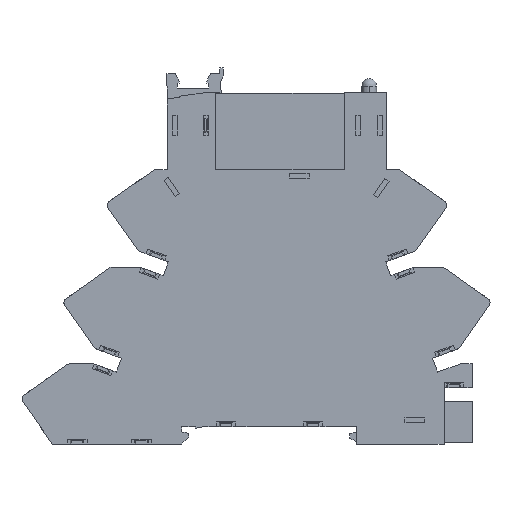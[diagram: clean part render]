
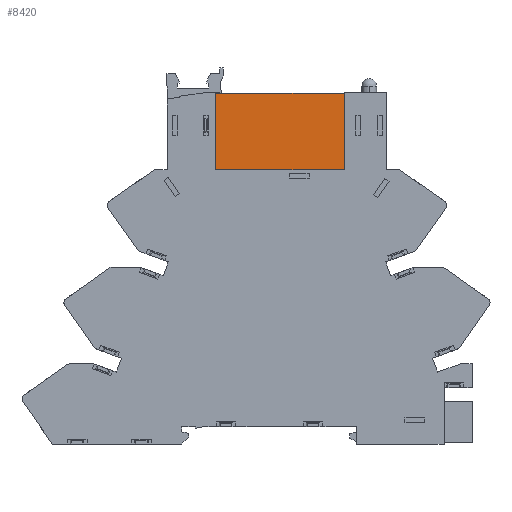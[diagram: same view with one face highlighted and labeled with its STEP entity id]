
A CAD part, left-side view. The second image highlights one B-rep face of the part: STEP entity #8420.
In plain terms, the highlighted planar face has unit normal (-1, 0, 0).
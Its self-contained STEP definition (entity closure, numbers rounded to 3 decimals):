
#466 = VERTEX_POINT ( 'NONE', #7948 ) ;
#1104 = VECTOR ( 'NONE', #3291, 1000. ) ;
#1930 = CARTESIAN_POINT ( 'NONE',  ( -3., -15.206, 67.991 ) ) ;
#2346 = CARTESIAN_POINT ( 'NONE',  ( -3., -15.206, 52.359 ) ) ;
#2509 = EDGE_CURVE ( 'NONE', #466, #11134, #11460, .T. ) ;
#2667 = ORIENTED_EDGE ( 'NONE', *, *, #7875, .F. ) ;
#3270 = CARTESIAN_POINT ( 'NONE',  ( -3., 1.384, -0.099 ) ) ;
#3291 = DIRECTION ( 'NONE',  ( 0., 0., -1. ) ) ;
#3368 = LINE ( 'NONE', #3470, #9355 ) ;
#3470 = CARTESIAN_POINT ( 'NONE',  ( -3., 1.384, 67.991 ) ) ;
#4093 = VERTEX_POINT ( 'NONE', #1930 ) ;
#4914 = LINE ( 'NONE', #11804, #7734 ) ;
#5116 = VECTOR ( 'NONE', #6054, 1000. ) ;
#5681 = PLANE ( 'NONE',  #13537 ) ;
#6054 = DIRECTION ( 'NONE',  ( 0., 0., -1. ) ) ;
#6855 = DIRECTION ( 'NONE',  ( -1., 0., 0. ) ) ;
#7382 = ORIENTED_EDGE ( 'NONE', *, *, #2509, .T. ) ;
#7734 = VECTOR ( 'NONE', #14252, 1000. ) ;
#7875 = EDGE_CURVE ( 'NONE', #4093, #12484, #7900, .T. ) ;
#7900 = LINE ( 'NONE', #12799, #1104 ) ;
#7948 = CARTESIAN_POINT ( 'NONE',  ( -3., 10.976, 67.991 ) ) ;
#8420 = ADVANCED_FACE ( 'NONE', ( #11960 ), #5681, .T. ) ;
#8512 = EDGE_CURVE ( 'NONE', #4093, #466, #3368, .T. ) ;
#8719 = ORIENTED_EDGE ( 'NONE', *, *, #13041, .F. ) ;
#9355 = VECTOR ( 'NONE', #9391, 1000. ) ;
#9391 = DIRECTION ( 'NONE',  ( 0., 1., 0. ) ) ;
#11134 = VERTEX_POINT ( 'NONE', #12588 ) ;
#11460 = LINE ( 'NONE', #14443, #5116 ) ;
#11804 = CARTESIAN_POINT ( 'NONE',  ( -3., 10.976, 52.359 ) ) ;
#11960 = FACE_OUTER_BOUND ( 'NONE', #14568, .T. ) ;
#12484 = VERTEX_POINT ( 'NONE', #2346 ) ;
#12588 = CARTESIAN_POINT ( 'NONE',  ( -3., 10.976, 52.359 ) ) ;
#12799 = CARTESIAN_POINT ( 'NONE',  ( -3., -15.206, 52.359 ) ) ;
#13041 = EDGE_CURVE ( 'NONE', #12484, #11134, #4914, .T. ) ;
#13537 = AXIS2_PLACEMENT_3D ( 'NONE', #3270, #6855, #15271 ) ;
#14252 = DIRECTION ( 'NONE',  ( 0., 1., 0. ) ) ;
#14443 = CARTESIAN_POINT ( 'NONE',  ( -3., 10.976, 52.359 ) ) ;
#14491 = ORIENTED_EDGE ( 'NONE', *, *, #8512, .T. ) ;
#14568 = EDGE_LOOP ( 'NONE', ( #8719, #2667, #14491, #7382 ) ) ;
#15271 = DIRECTION ( 'NONE',  ( 0., 0., 1. ) ) ;
